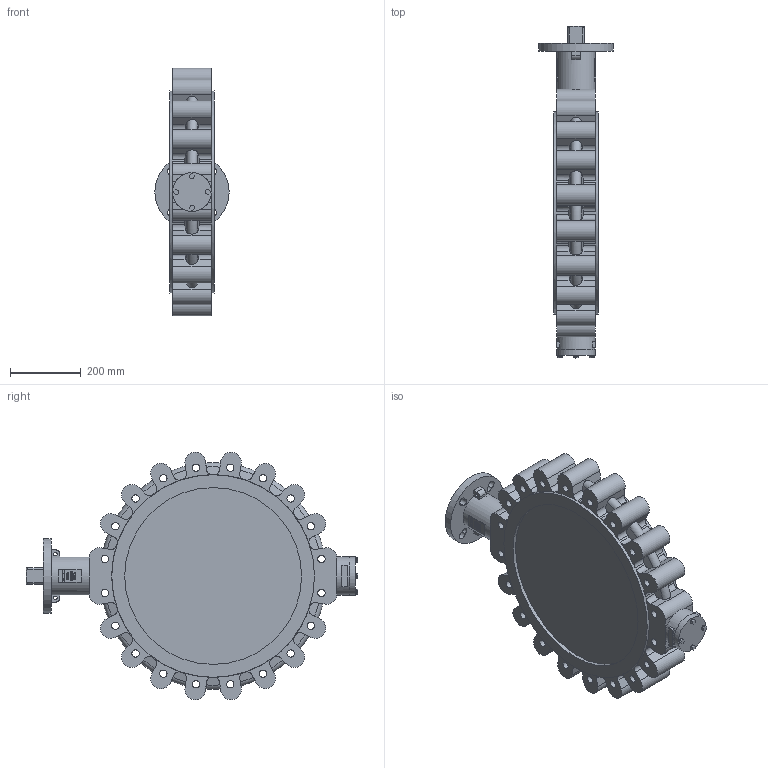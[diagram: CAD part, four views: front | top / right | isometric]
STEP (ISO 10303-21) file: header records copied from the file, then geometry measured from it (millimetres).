
FILE_DESCRIPTION(/* description */ (''),/* implementation_level */ '2;1');
FILE_NAME(/* name */ '6820-DN500-PN10-NBR - 13332797.stp',/* time_stamp */ '2024-09-05T08:14:07+02:00',/* author */ ('roger.thijssen'),/* organization */ (''),/* preprocessor_version */ 'ST-DEVELOPER v20',/* originating_system */ 'Autodesk Inventor 2024',/* authorisation */ '');
FILE_SCHEMA (('AUTOMOTIVE_DESIGN { 1 0 10303 214 3 1 1 }'));
Length unit declared in the file: millimetre
Products named in the file (1): 6820-DN500-PN10
Bounding box: 210 x 938.55 x 699.99 mm (x, y, z)
Volume: 39723794.9 mm3; surface area: 1415081.4 mm2
Topology: 1 solids, 1 shells, 738 faces, 2009 edges, 1317 vertices
Faces by surface type: plane 380, cylinder 167, bspline 132, cone 41, torus 18
Full cylindrical faces by diameter (mm): 6.647 x1, 10 x2, 12.88 x4, 20.752 x20, 109.8 x1, 110 x2, 210 x1, 500 x2, 573 x2
Entity records: 26738 total; most frequent: CARTESIAN_POINT 8125, ORIENTED_EDGE 4016, DIRECTION 3218, EDGE_CURVE 2008, VERTEX_POINT 1317, LINE 1100, VECTOR 1100, AXIS2_PLACEMENT_3D 1059
